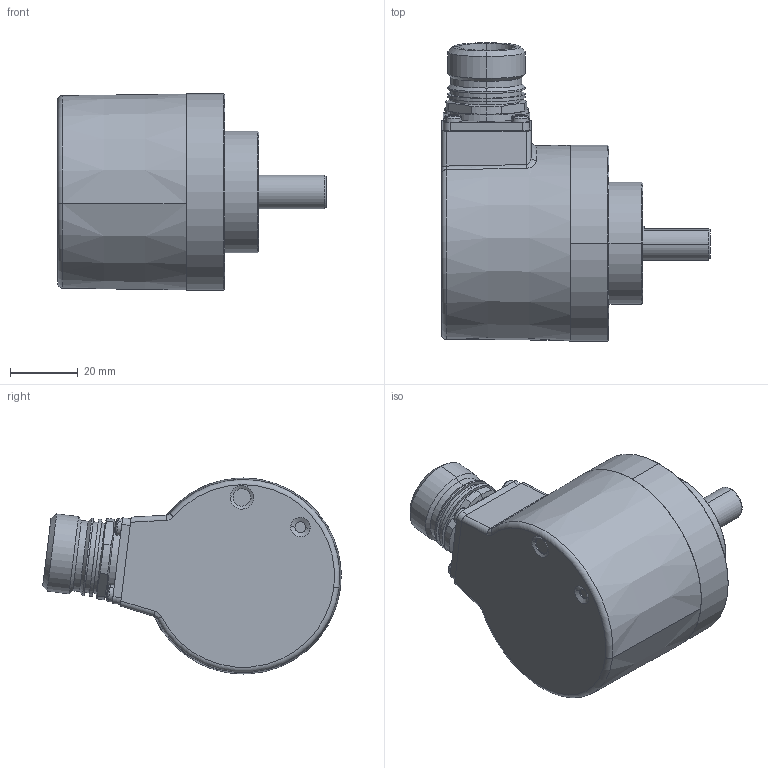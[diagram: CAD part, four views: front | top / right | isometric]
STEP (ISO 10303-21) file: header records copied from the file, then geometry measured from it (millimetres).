
FILE_DESCRIPTION (( 'STEP AP214' ), '1' );
FILE_NAME ('5863.1224.XXXX.STEP', '2008-06-06T06:19:37', ( 'admin' ), ( 'Fritz Kübler GmbH' ), 'SwSTEP 2.0', 'SolidWorks 2007', '' );
FILE_SCHEMA (( 'AUTOMOTIVE_DESIGN' ));
Length unit declared in the file: millimetre
Products named in the file (1): 5863.1224.XXXX
Bounding box: 79.5 x 88.28 x 58 mm (x, y, z)
Surface area: 25064.3 mm2 (no closed solid volume)
Topology: 0 solids, 32 shells, 334 faces, 873 edges, 555 vertices
Faces by surface type: cylinder 133, plane 90, cone 41, sphere 32, torus 32, bspline 6
Entity records: 14176 total; most frequent: CARTESIAN_POINT 2091, DIRECTION 2003, ORIENTED_EDGE 1532, AXIS2_PLACEMENT_3D 853, EDGE_CURVE 849, VERTEX_POINT 555, CIRCLE 524, EDGE_LOOP 385
